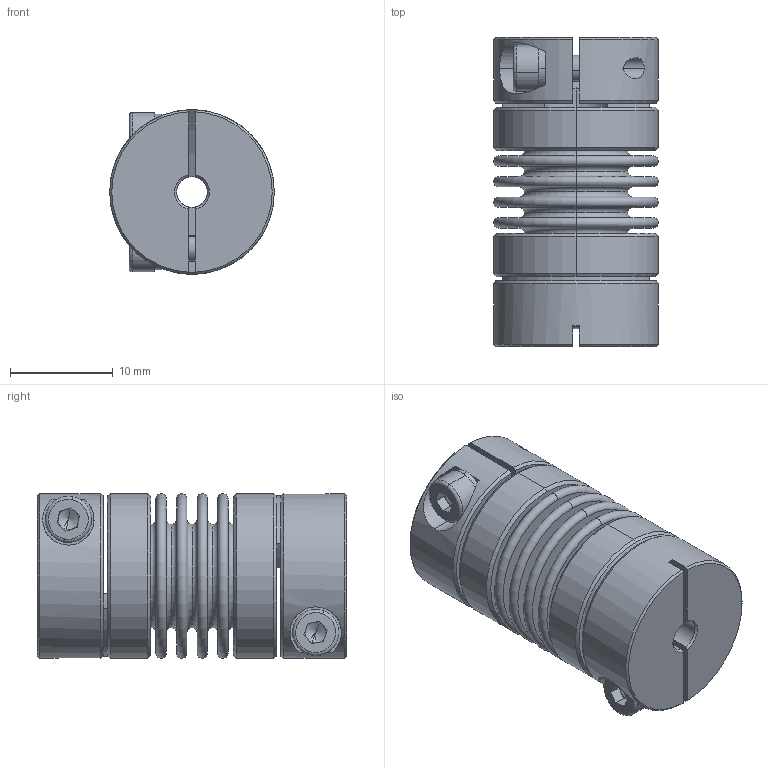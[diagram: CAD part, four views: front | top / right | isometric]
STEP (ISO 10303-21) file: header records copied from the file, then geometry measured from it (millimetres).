
FILE_DESCRIPTION (( 'STEP AP203' ), '1' );
FILE_NAME ('LB-B-D16L30-3-7.STEP', '2021-11-04T01:10:13', ( '' ), ( '' ), 'SwSTEP 2.0', 'SolidWorks 2018', '' );
FILE_SCHEMA (( 'CONFIG_CONTROL_DESIGN' ));
Length unit declared in the file: millimetre
Products named in the file (2): 零件1^LB-B-D16L30 波纹管联轴器-组装体; LB-B-D16L30-3-7
Assembly tree (1 placements, depth 2):
  LB-B-D16L30-3-7
    零件1^LB-B-D16L30 波纹管联轴器-组装体
Bounding box: 16 x 30.04 x 16 mm (x, y, z)
Volume: 3220.8 mm3; surface area: 6449 mm2
Topology: 1 solids, 1 shells, 254 faces, 586 edges, 362 vertices
Faces by surface type: plane 86, torus 68, cylinder 66, cone 34
Entity records: 7660 total; most frequent: CARTESIAN_POINT 1472, DIRECTION 1420, ORIENTED_EDGE 1164, AXIS2_PLACEMENT_3D 622, EDGE_CURVE 582, CIRCLE 364, VERTEX_POINT 362, EDGE_LOOP 296
